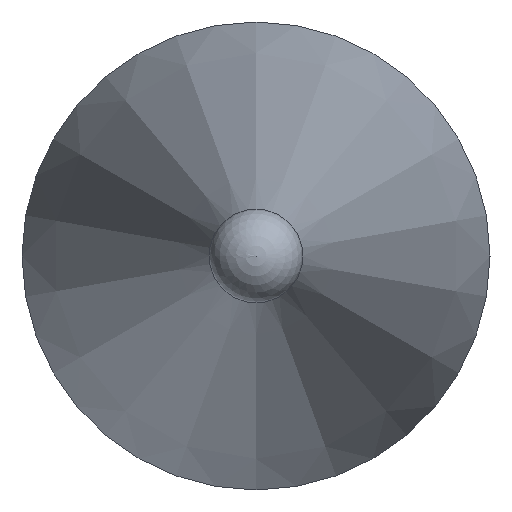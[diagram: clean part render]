
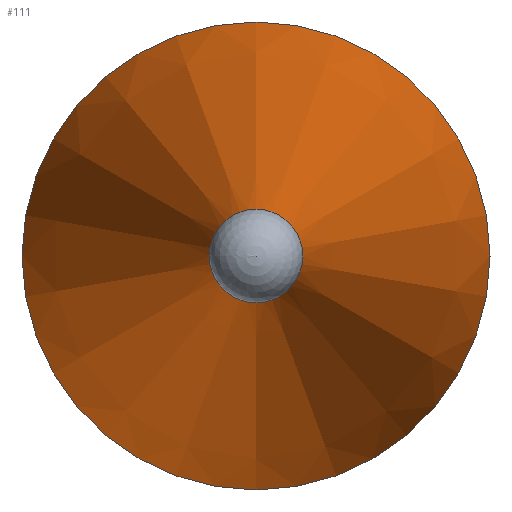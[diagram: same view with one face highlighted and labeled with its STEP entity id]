
A CAD part, left-side view. The second image highlights one B-rep face of the part: STEP entity #111.
In plain terms, the highlighted conical face has half-angle 12 degrees and reference radius 2 mm.
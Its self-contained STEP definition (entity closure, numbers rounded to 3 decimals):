
#95=CONICAL_SURFACE('',#160,2.,12.);
#101=FACE_BOUND('',#121,.T.);
#102=FACE_BOUND('',#122,.T.);
#111=ADVANCED_FACE('',(#101,#102),#95,.T.);
#121=EDGE_LOOP('',(#131));
#122=EDGE_LOOP('',(#132));
#131=ORIENTED_EDGE('',*,*,#144,.F.);
#132=ORIENTED_EDGE('',*,*,#145,.T.);
#139=VERTEX_POINT('',#196);
#140=VERTEX_POINT('',#199);
#144=EDGE_CURVE('',#139,#139,#149,.T.);
#145=EDGE_CURVE('',#140,#140,#150,.T.);
#149=CIRCLE('',#157,0.4);
#150=CIRCLE('',#159,2.);
#157=AXIS2_PLACEMENT_3D('',#195,#174,#175);
#159=AXIS2_PLACEMENT_3D('',#198,#178,#179);
#160=AXIS2_PLACEMENT_3D('',#200,#180,#181);
#174=DIRECTION('',(-1.,0.,0.));
#175=DIRECTION('',(0.,0.,1.));
#178=DIRECTION('',(-1.,0.,0.));
#179=DIRECTION('',(0.,0.,1.));
#180=DIRECTION('',(1.,0.,0.));
#181=DIRECTION('',(0.,0.,-1.));
#195=CARTESIAN_POINT('',(7889.062,6105.041,0.));
#196=CARTESIAN_POINT('',(7889.062,6105.041,0.4));
#198=CARTESIAN_POINT('',(7896.589,6105.041,0.));
#199=CARTESIAN_POINT('',(7896.589,6105.041,2.));
#200=CARTESIAN_POINT('',(7896.589,6105.041,0.));
